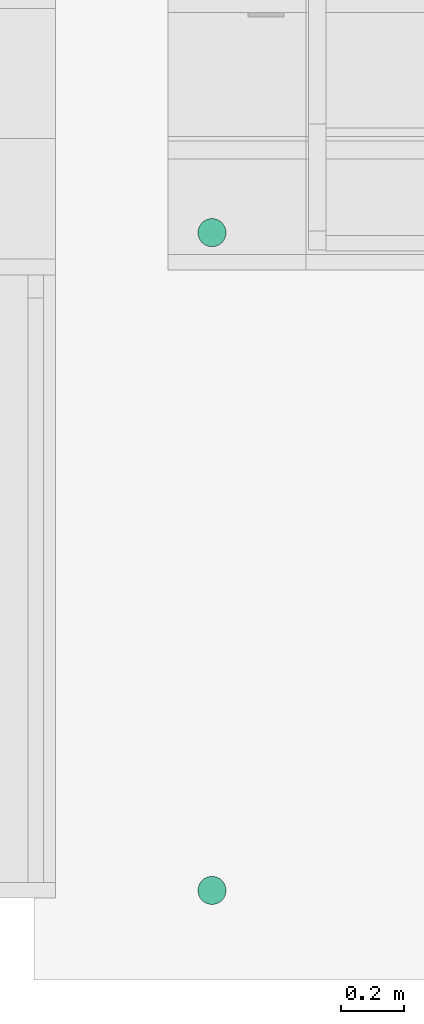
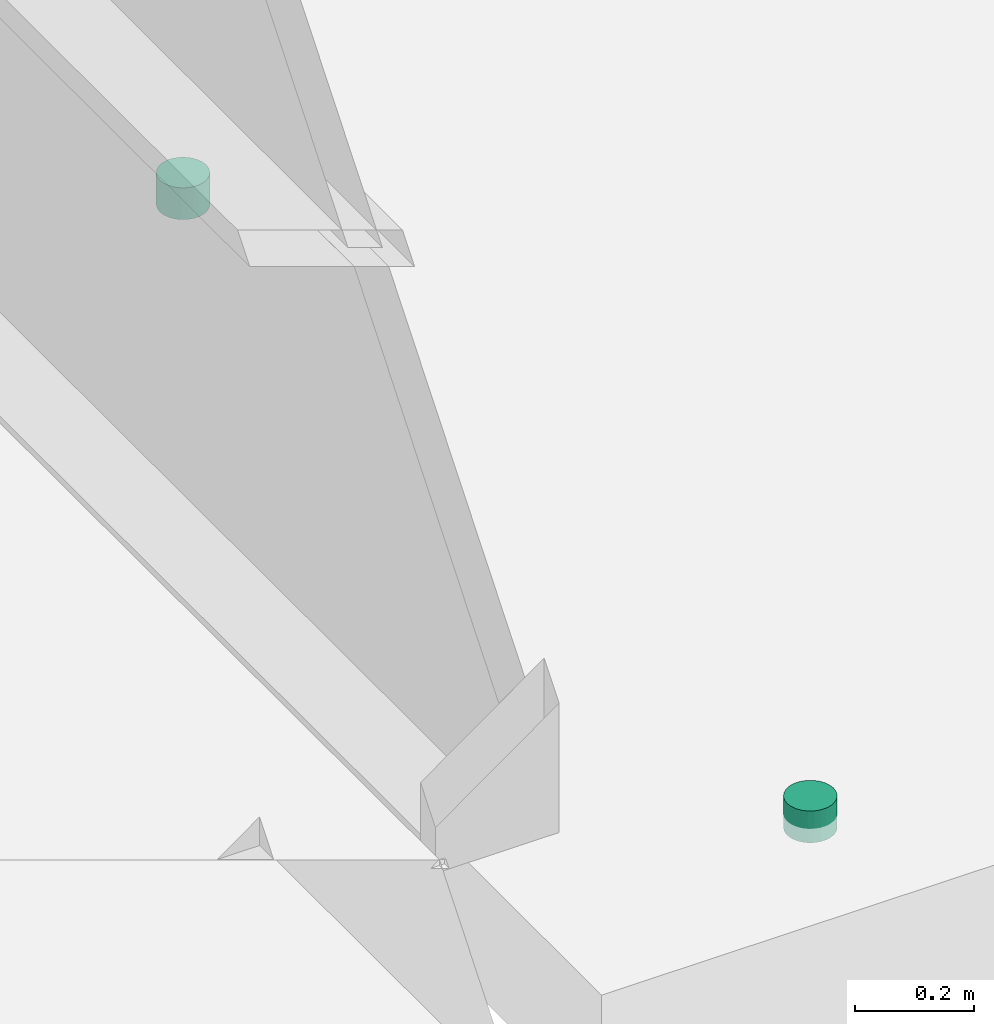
# One storey, part 8 of 10: 2 flow terminals.
"""IFC2X3 building model written with IfcOpenShell, lengths in millimetres."""

from ifc_helpers import new_model, entity, si_unit, converted_unit, derived_unit, direction, frame, frame_2d, origin, origin_with_axes, place, context, subcontext, project, spatial, circle, extrude, source, transform, mapped, material, type_object, element, save


model = new_model("IFC2X3")

# Units and contexts
model_context = context("Model", 3, precision=0.01, world=origin(), true_north=direction((6.12303176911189e-17, 1.0)))
plan_context = context("Plan", 3, precision=1e-05, world=origin_with_axes())
body_context = subcontext(model_context, "Body", "Model", "MODEL_VIEW")
ifc_project = project(units=[converted_unit("PLANEANGLEUNIT", "DEGREE", entity("IfcPositiveLengthMeasure", 0.0174532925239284), si_unit("PLANEANGLEUNIT", "RADIAN"), dimensions=[0, 0, 0, 0, 0, 0, 0]), si_unit("AREAUNIT", "SQUARE_METRE"), si_unit("LENGTHUNIT", "METRE", prefix="MILLI"), si_unit("MASSUNIT", "GRAM", prefix="KILO"), si_unit("POWERUNIT", "WATT"), si_unit("PRESSUREUNIT", "PASCAL"), si_unit("FORCEUNIT", "NEWTON", prefix="KILO"), si_unit("ELECTRICVOLTAGEUNIT", "VOLT"), si_unit("ELECTRICCURRENTUNIT", "AMPERE"), si_unit("THERMODYNAMICTEMPERATUREUNIT", "DEGREE_CELSIUS"), si_unit("TIMEUNIT", "SECOND"), si_unit("VOLUMEUNIT", "CUBIC_METRE"), derived_unit("LINEARVELOCITYUNIT", [(si_unit("LENGTHUNIT", "METRE"), 1), (si_unit("TIMEUNIT", "SECOND"), -1)]), derived_unit("VOLUMETRICFLOWRATEUNIT", [(si_unit("VOLUMEUNIT", "CUBIC_METRE"), 1), (si_unit("TIMEUNIT", "SECOND"), -1)]), derived_unit("THERMALTRANSMITTANCEUNIT", [(si_unit("POWERUNIT", "WATT"), 1), (si_unit("THERMODYNAMICTEMPERATUREUNIT", "KELVIN"), -1), (si_unit("AREAUNIT", "SQUARE_METRE"), -1)]), derived_unit("SOUNDPRESSUREUNIT", [(si_unit("PRESSUREUNIT", "PASCAL"), 1)])], contexts=[model_context, plan_context])

# Site, building, storey
site_placement = place(None, frame((2314154.5009392, 1029894.10887124, 0.0), z_axis=(0.0, 0.0, 1.0), x_axis=(1.0, 0.0, 0.0)))
site = spatial("IfcSite", under=ifc_project, at=site_placement, Name="Default", CompositionType="ELEMENT")
building_placement = place(site_placement, origin_with_axes())
building = spatial("IfcBuilding", under=site, at=building_placement, CompositionType="ELEMENT")
storey_placement = place(building_placement, frame((0.0, 0.0, 9320.0), z_axis=(0.0, 0.0, 1.0), x_axis=(1.0, 0.0, 0.0)))
storey = spatial("IfcBuildingStorey", under=building, at=storey_placement, Name="H01 Hovedetasje", CompositionType="ELEMENT", Elevation=9320.0)

# Flow terminals
ifc_material = material(Name="<Unnamed>")
light_fixture_type = type_object("IfcLightFixtureType", Name="Værnes_Lysarmatur_gulv_B:UP17", PredefinedType="NOTDEFINED", material=ifc_material)
shared_shape = source(origin(), body_context, "Body", "SweptSolid", [
    extrude(circle(Radius=45.0, at=frame_2d((2.18348577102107e-16, -7.26995058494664e-14), x_axis=(1.0, 0.0))), frame((0.0, 0.0, -60.0)), (0.0, 0.0, 1.0), 64.9999999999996),
])
for number, where, z_axis, x_axis in (
    (1, (103751.051105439, -42049.2611612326, -170.0), (0.0, 0.0, 1.0), (1.0, 0.0, 0.0)),
    (2, (103751.051105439, -39949.2714097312, -170.0), (0.0, 0.0, 1.0), (1.0, 0.0, 0.0)),
):
    element("IfcFlowTerminal", number, at=place(storey_placement, frame(where, z_axis=z_axis, x_axis=x_axis)), inside=storey, type_object=light_fixture_type, material=ifc_material, Name="Værnes_Lysarmatur_gulv_B:UP17", ObjectType="Værnes_Lysarmatur_gulv_B:UP17", context=body_context, shape_type="MappedRepresentation", body=[
        mapped(shared_shape, transform((0.0, 0.0, 0.0), scale=1.0)),
    ])

save(model, "model.ifc")
